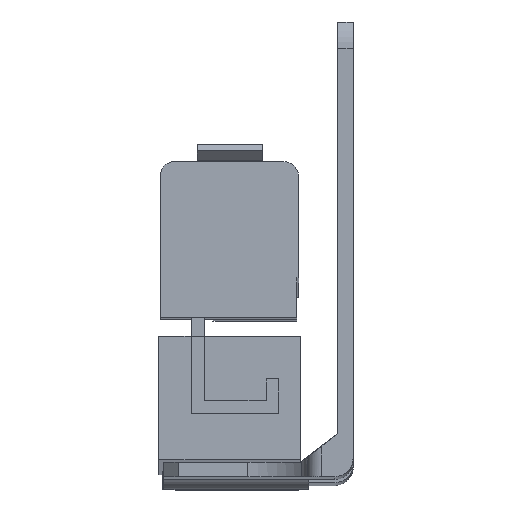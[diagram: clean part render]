
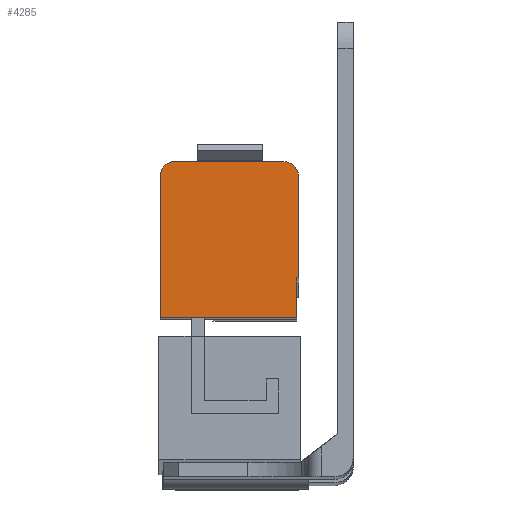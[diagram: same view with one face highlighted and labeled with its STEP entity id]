
A CAD part, front view. The second image highlights one B-rep face of the part: STEP entity #4285.
In plain terms, the highlighted planar face has unit normal (0, -1, 0.011).
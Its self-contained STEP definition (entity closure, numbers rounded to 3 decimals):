
#428 = EDGE_CURVE ( 'NONE', #778, #769, #2966, .T. ) ;
#431 = EDGE_CURVE ( 'NONE', #769, #779, #2973, .T. ) ;
#435 = EDGE_CURVE ( 'NONE', #779, #786, #2979, .T. ) ;
#438 = EDGE_CURVE ( 'NONE', #786, #785, #2986, .T. ) ;
#442 = EDGE_CURVE ( 'NONE', #785, #790, #2992, .T. ) ;
#443 = EDGE_CURVE ( 'NONE', #797, #778, #2994, .T. ) ;
#446 = EDGE_CURVE ( 'NONE', #790, #792, #3000, .T. ) ;
#447 = EDGE_CURVE ( 'NONE', #792, #797, #3002, .T. ) ;
#566 = AXIS2_PLACEMENT_3D ( 'NONE', #4735, #4734, #4738 ) ;
#567 = AXIS2_PLACEMENT_3D ( 'NONE', #4715, #4714, #4718 ) ;
#692 = AXIS2_PLACEMENT_3D ( 'NONE', #3772, #3773, #3774 ) ;
#769 = VERTEX_POINT ( 'NONE', #3118 ) ;
#778 = VERTEX_POINT ( 'NONE', #3127 ) ;
#779 = VERTEX_POINT ( 'NONE', #3128 ) ;
#785 = VERTEX_POINT ( 'NONE', #3134 ) ;
#786 = VERTEX_POINT ( 'NONE', #3135 ) ;
#790 = VERTEX_POINT ( 'NONE', #3139 ) ;
#792 = VERTEX_POINT ( 'NONE', #3141 ) ;
#797 = VERTEX_POINT ( 'NONE', #3146 ) ;
#1820 = CARTESIAN_POINT ( 'NONE',  ( -7.5, -21.569, -6.352 ) ) ;
#1821 = DIRECTION ( 'NONE',  ( 0., 0.01, 1. ) ) ;
#2966 = LINE ( 'NONE', #1820, #2967 ) ;
#2967 = VECTOR ( 'NONE', #1821, 1000. ) ;
#2973 = CIRCLE ( 'NONE', #566, 2.05 ) ;
#2979 = LINE ( 'NONE', #4701, #2980 ) ;
#2980 = VECTOR ( 'NONE', #4704, 1000. ) ;
#2986 = CIRCLE ( 'NONE', #567, 1.75 ) ;
#2992 = LINE ( 'NONE', #4728, #2993 ) ;
#2993 = VECTOR ( 'NONE', #4727, 1000. ) ;
#2994 = LINE ( 'NONE', #4726, #2995 ) ;
#2995 = VECTOR ( 'NONE', #4725, 1000. ) ;
#3000 = LINE ( 'NONE', #4711, #3001 ) ;
#3001 = VECTOR ( 'NONE', #4710, 1000. ) ;
#3002 = LINE ( 'NONE', #4717, #3003 ) ;
#3003 = VECTOR ( 'NONE', #4713, 1000. ) ;
#3118 = CARTESIAN_POINT ( 'NONE',  ( -7.5, -21.569, -6.352 ) ) ;
#3127 = CARTESIAN_POINT ( 'NONE',  ( -7.5, -21.715, -20.301 ) ) ;
#3128 = CARTESIAN_POINT ( 'NONE',  ( -9.55, -21.548, -4.302 ) ) ;
#3134 = CARTESIAN_POINT ( 'NONE',  ( -26.5, -21.566, -6.052 ) ) ;
#3135 = CARTESIAN_POINT ( 'NONE',  ( -24.75, -21.548, -4.302 ) ) ;
#3139 = CARTESIAN_POINT ( 'NONE',  ( -26.5, -21.773, -25.801 ) ) ;
#3141 = CARTESIAN_POINT ( 'NONE',  ( -7.75, -21.773, -25.801 ) ) ;
#3146 = CARTESIAN_POINT ( 'NONE',  ( -7.75, -21.715, -20.301 ) ) ;
#3771 = PLANE ( 'NONE',  #692 ) ;
#3772 = CARTESIAN_POINT ( 'NONE',  ( -24.75, -21.566, -6.052 ) ) ;
#3773 = DIRECTION ( 'NONE',  ( 0., -1., 0.01 ) ) ;
#3774 = DIRECTION ( 'NONE',  ( 0., -0.01, -1. ) ) ;
#4136 = FACE_OUTER_BOUND ( 'NONE', #4679, .T. ) ;
#4285 = ADVANCED_FACE ( 'NONE', ( #4136 ), #3771, .T. ) ;
#4591 = ORIENTED_EDGE ( 'NONE', *, *, #443, .T. ) ;
#4599 = ORIENTED_EDGE ( 'NONE', *, *, #435, .T. ) ;
#4600 = ORIENTED_EDGE ( 'NONE', *, *, #438, .T. ) ;
#4601 = ORIENTED_EDGE ( 'NONE', *, *, #442, .T. ) ;
#4602 = ORIENTED_EDGE ( 'NONE', *, *, #446, .T. ) ;
#4603 = ORIENTED_EDGE ( 'NONE', *, *, #447, .T. ) ;
#4660 = ORIENTED_EDGE ( 'NONE', *, *, #428, .T. ) ;
#4662 = ORIENTED_EDGE ( 'NONE', *, *, #431, .T. ) ;
#4679 = EDGE_LOOP ( 'NONE', ( #4660, #4662, #4599, #4600, #4601, #4602, #4603, #4591 ) ) ;
#4701 = CARTESIAN_POINT ( 'NONE',  ( -24.75, -21.548, -4.302 ) ) ;
#4704 = DIRECTION ( 'NONE',  ( -1., 0., 0. ) ) ;
#4710 = DIRECTION ( 'NONE',  ( 1., 0., 0. ) ) ;
#4711 = CARTESIAN_POINT ( 'NONE',  ( -7.75, -21.773, -25.801 ) ) ;
#4713 = DIRECTION ( 'NONE',  ( 0., 0.01, 1. ) ) ;
#4714 = DIRECTION ( 'NONE',  ( 0., -1., 0.01 ) ) ;
#4715 = CARTESIAN_POINT ( 'NONE',  ( -24.75, -21.566, -6.052 ) ) ;
#4717 = CARTESIAN_POINT ( 'NONE',  ( -7.75, -21.773, -25.801 ) ) ;
#4718 = DIRECTION ( 'NONE',  ( 0., -0.01, -1. ) ) ;
#4725 = DIRECTION ( 'NONE',  ( 1., 0., 0. ) ) ;
#4726 = CARTESIAN_POINT ( 'NONE',  ( -26.5, -21.715, -20.301 ) ) ;
#4727 = DIRECTION ( 'NONE',  ( 0., -0.01, -1. ) ) ;
#4728 = CARTESIAN_POINT ( 'NONE',  ( -26.5, -21.566, -6.052 ) ) ;
#4734 = DIRECTION ( 'NONE',  ( 0., -1., 0.01 ) ) ;
#4735 = CARTESIAN_POINT ( 'NONE',  ( -9.55, -21.569, -6.352 ) ) ;
#4738 = DIRECTION ( 'NONE',  ( 0., 0.01, 1. ) ) ;
